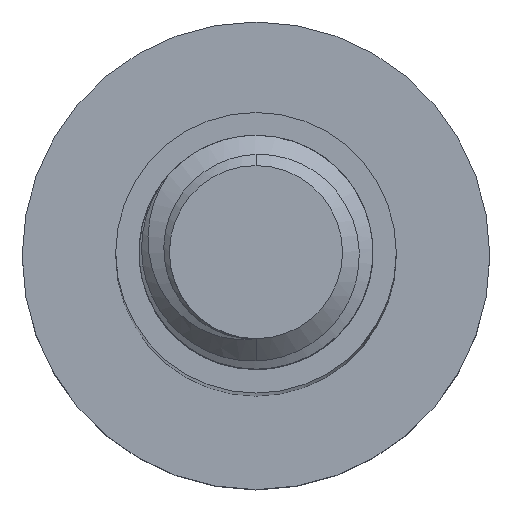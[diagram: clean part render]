
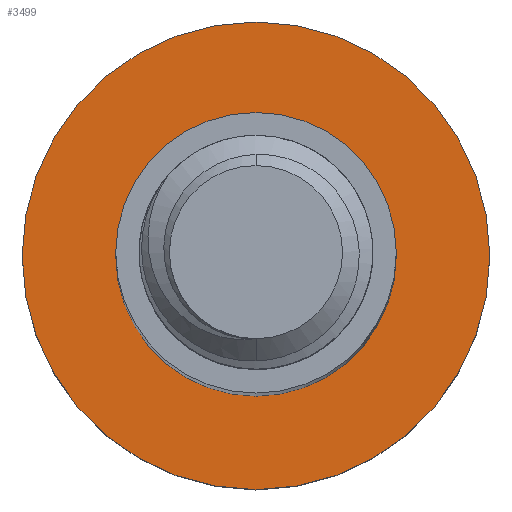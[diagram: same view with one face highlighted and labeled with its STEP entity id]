
A CAD part, top view. The second image highlights one B-rep face of the part: STEP entity #3499.
In plain terms, the highlighted planar face has unit normal (0, 0, 1).
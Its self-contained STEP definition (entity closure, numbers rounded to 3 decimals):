
#21 = CARTESIAN_POINT ( 'NONE',  ( -6., 0., -75. ) ) ;
#184 = CIRCLE ( 'NONE', #1546, 6. ) ;
#220 = ORIENTED_EDGE ( 'NONE', *, *, #422, .T. ) ;
#230 = CIRCLE ( 'NONE', #3099, 6. ) ;
#273 = VERTEX_POINT ( 'NONE', #2050 ) ;
#422 = EDGE_CURVE ( 'NONE', #810, #273, #230, .T. ) ;
#562 = CARTESIAN_POINT ( 'NONE',  ( -10., 0., -75. ) ) ;
#810 = VERTEX_POINT ( 'NONE', #21 ) ;
#839 = CARTESIAN_POINT ( 'NONE',  ( 0., 0., -75. ) ) ;
#886 = DIRECTION ( 'NONE',  ( -1., 0., 0. ) ) ;
#1073 = PLANE ( 'NONE',  #2539 ) ;
#1314 = AXIS2_PLACEMENT_3D ( 'NONE', #3553, #2187, #3005 ) ;
#1372 = VERTEX_POINT ( 'NONE', #2454 ) ;
#1377 = EDGE_CURVE ( 'NONE', #2632, #1372, #3277, .T. ) ;
#1459 = DIRECTION ( 'NONE',  ( 0., 0., -1. ) ) ;
#1546 = AXIS2_PLACEMENT_3D ( 'NONE', #3031, #1459, #886 ) ;
#1774 = DIRECTION ( 'NONE',  ( -1., 0., 0. ) ) ;
#1837 = EDGE_CURVE ( 'NONE', #1372, #2632, #3221, .T. ) ;
#1849 = CARTESIAN_POINT ( 'NONE',  ( 0., 0., -75. ) ) ;
#1884 = DIRECTION ( 'NONE',  ( -1., 0., 0. ) ) ;
#1892 = FACE_BOUND ( 'NONE', #2063, .T. ) ;
#1955 = EDGE_LOOP ( 'NONE', ( #3057, #2518 ) ) ;
#2031 = DIRECTION ( 'NONE',  ( 0., 0., -1. ) ) ;
#2050 = CARTESIAN_POINT ( 'NONE',  ( 6., 0., -75. ) ) ;
#2063 = EDGE_LOOP ( 'NONE', ( #220, #2385 ) ) ;
#2157 = EDGE_CURVE ( 'NONE', #273, #810, #184, .T. ) ;
#2174 = DIRECTION ( 'NONE',  ( 0., 0., -1. ) ) ;
#2187 = DIRECTION ( 'NONE',  ( 0., 0., -1. ) ) ;
#2309 = AXIS2_PLACEMENT_3D ( 'NONE', #3127, #2031, #1774 ) ;
#2385 = ORIENTED_EDGE ( 'NONE', *, *, #2157, .T. ) ;
#2454 = CARTESIAN_POINT ( 'NONE',  ( 10., 0., -75. ) ) ;
#2518 = ORIENTED_EDGE ( 'NONE', *, *, #1377, .F. ) ;
#2539 = AXIS2_PLACEMENT_3D ( 'NONE', #839, #2174, #3502 ) ;
#2632 = VERTEX_POINT ( 'NONE', #562 ) ;
#3005 = DIRECTION ( 'NONE',  ( -1., 0., 0. ) ) ;
#3031 = CARTESIAN_POINT ( 'NONE',  ( 0., 0., -75. ) ) ;
#3057 = ORIENTED_EDGE ( 'NONE', *, *, #1837, .F. ) ;
#3099 = AXIS2_PLACEMENT_3D ( 'NONE', #1849, #3512, #1884 ) ;
#3127 = CARTESIAN_POINT ( 'NONE',  ( 0., 0., -75. ) ) ;
#3221 = CIRCLE ( 'NONE', #2309, 10. ) ;
#3264 = FACE_OUTER_BOUND ( 'NONE', #1955, .T. ) ;
#3277 = CIRCLE ( 'NONE', #1314, 10. ) ;
#3499 = ADVANCED_FACE ( 'NONE', ( #1892, #3264 ), #1073, .F. ) ;
#3502 = DIRECTION ( 'NONE',  ( -1., 0., 0. ) ) ;
#3512 = DIRECTION ( 'NONE',  ( 0., 0., -1. ) ) ;
#3553 = CARTESIAN_POINT ( 'NONE',  ( 0., 0., -75. ) ) ;
